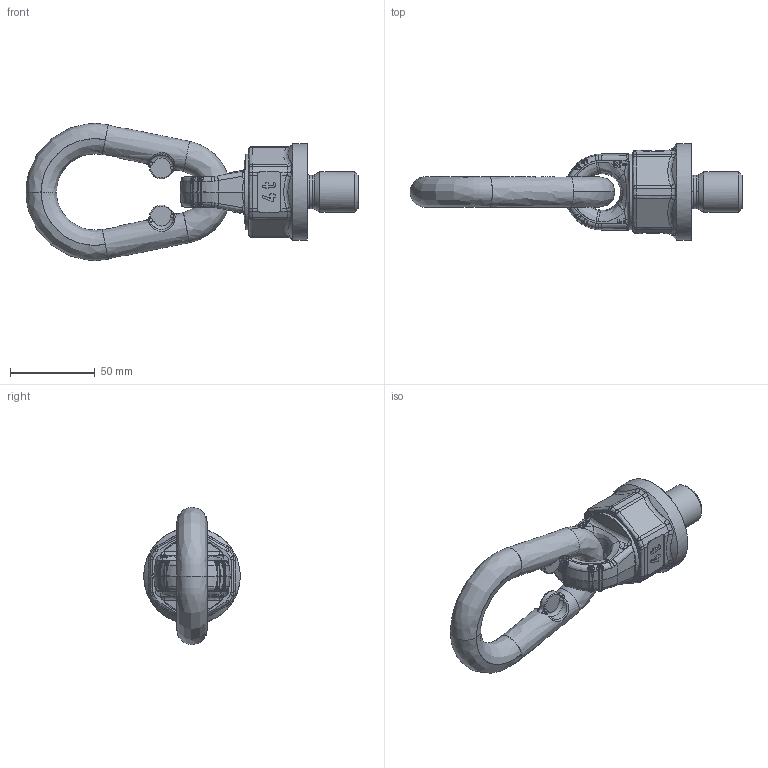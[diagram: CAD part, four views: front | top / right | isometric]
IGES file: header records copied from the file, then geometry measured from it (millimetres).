
Global section: file name: C:\IDEAS\IDEAS-DATEN\Temp\TP4_M24x30_senkrecht.igs; preprocessor: I-DEAS 3D IGES Translator 11; date: 20071107.135659; units: millimetre
Bounding box: 196.1 x 56.98 x 80.98 mm (x, y, z)
Surface area: 32925.3 mm2 (no closed solid volume)
Topology: 0 solids, 0 shells, 659 faces, 3472 edges, 3400 vertices
Faces by surface type: bspline 659
